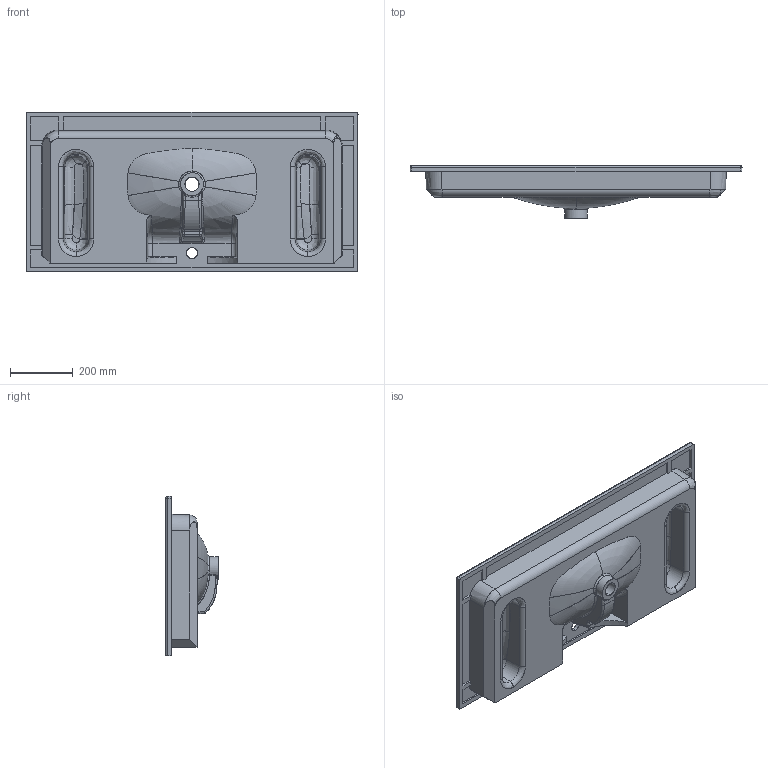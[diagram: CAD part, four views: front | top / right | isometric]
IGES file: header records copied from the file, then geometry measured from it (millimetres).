
Start section: SolidWorks IGES file using NURBS representation for surfaces
Global section: file name: C:\Users\User\Desktop\Soft\lavabi definitivi soft 51 m\soft 1060 x 515\definitivo soft 1060 x 515.IGS; native system: SolidWorks 2016; preprocessor: SolidWorks 2016; author: User; date: 200629.162552; units: millimetre
Bounding box: 1060 x 168 x 510 mm (x, y, z)
Surface area: 1551464 mm2 (no closed solid volume)
Topology: 0 solids, 0 shells, 204 faces, 2825 edges, 2817 vertices
Faces by surface type: bspline 204
